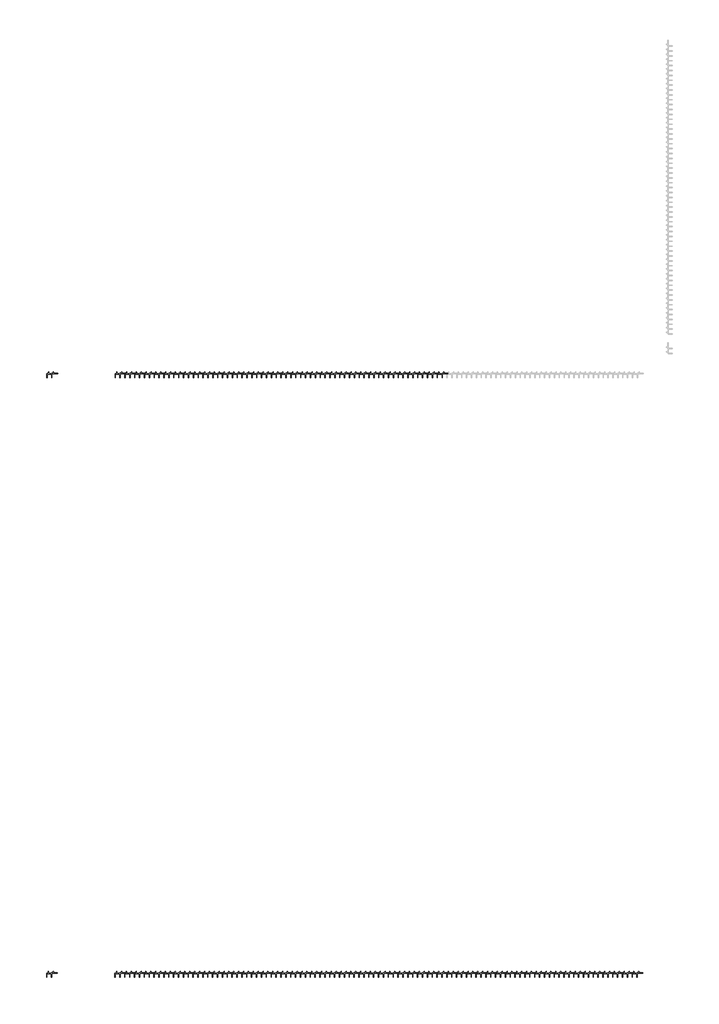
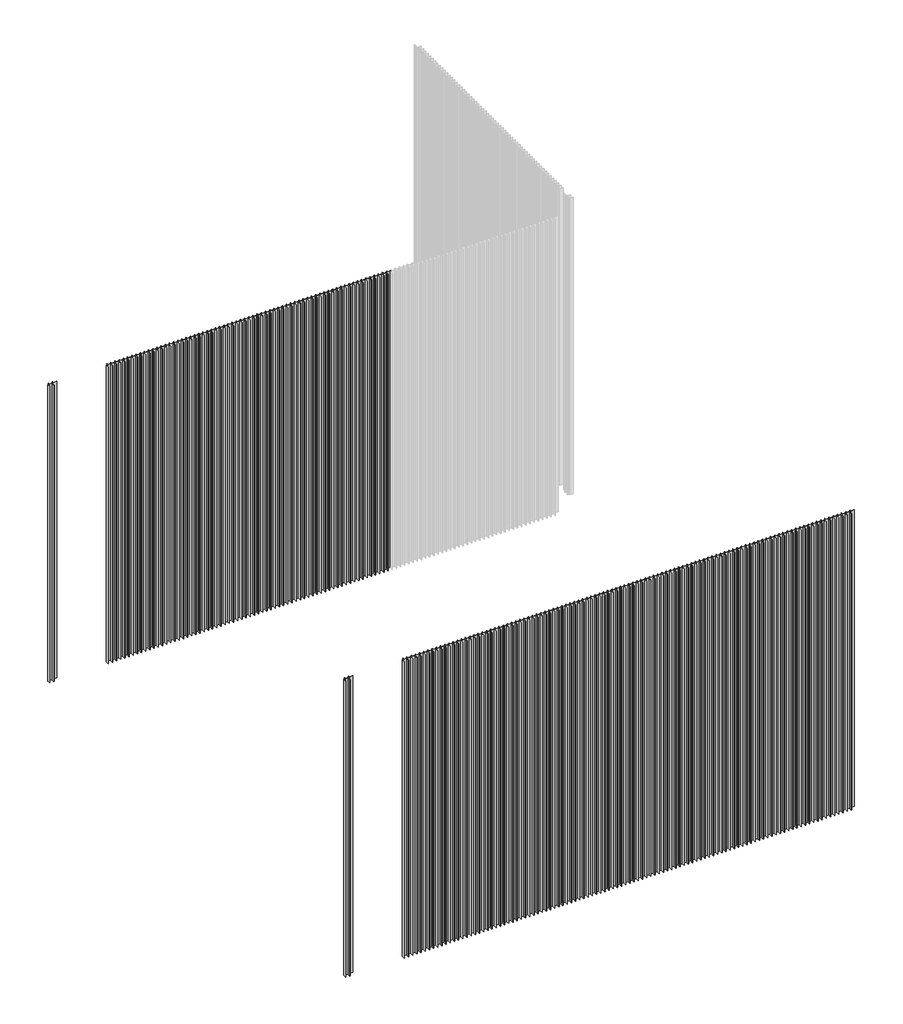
# One storey, part 1 of 2: 90 members.
"""IFC4 building model written with IfcOpenShell, lengths in millimetres."""

from ifc_helpers import new_model, si_unit, origin, place, context, project, spatial, transform, mapped, element, save
from components import rectangular_mullion_a288ed38, rectangular_mullion_a0ea876d

model = new_model("IFC4")

# Units and contexts
model_context = context("Model", 3, world=origin())
ifc_project = project(units=[si_unit("LENGTHUNIT", "METRE", prefix="MILLI")], contexts=[model_context])

# Site, building, storey
site = spatial("IfcSite", under=ifc_project)
building = spatial("IfcBuilding", under=site)
storey = spatial("IfcBuildingStorey", under=building, Name="REN - Top", Elevation=4000.0)

# Members
placement = place(None, origin())
rectangular_mullion_shape = rectangular_mullion_a288ed38(model_context)
element("IfcMember", 1, ObjectType="Rectangular Mullion : Renson_Linarte_LA-E25-01", at=placement, inside=storey, context=model_context, shape_type="MappedRepresentation", body=[
    mapped(rectangular_mullion_shape, transform((207544.2591292, 4519.040906, 0.0), x_axis=(1.0, 0.0, 0.0), y_axis=(0.0, -1.0, 0.0), z_axis=(0.0, 0.0, -1.0))),
])
element("IfcMember", 2, ObjectType="Rectangular Mullion : Renson_Linarte_LA-E25-01", at=placement, inside=storey, context=model_context, shape_type="MappedRepresentation", body=[
    mapped(rectangular_mullion_shape, transform((207604.2591292, 4519.040906, 0.0), x_axis=(1.0, 0.0, 0.0), y_axis=(0.0, -1.0, 0.0), z_axis=(0.0, 0.0, -1.0))),
])
element("IfcMember", 3, ObjectType="Rectangular Mullion : Renson_Linarte_LA-E25-01", at=placement, inside=storey, context=model_context, shape_type="MappedRepresentation", body=[
    mapped(rectangular_mullion_shape, transform((207664.2591292, 4519.040906, 0.0), x_axis=(1.0, 0.0, 0.0), y_axis=(0.0, -1.0, 0.0), z_axis=(0.0, 0.0, -1.0))),
])
element("IfcMember", 4, ObjectType="Rectangular Mullion : Renson_Linarte_LA-E25-01", at=placement, inside=storey, context=model_context, shape_type="MappedRepresentation", body=[
    mapped(rectangular_mullion_shape, transform((207724.2591292, 4519.040906, 0.0), x_axis=(1.0, 0.0, 0.0), y_axis=(0.0, -1.0, 0.0), z_axis=(0.0, 0.0, -1.0))),
])
element("IfcMember", 5, ObjectType="Rectangular Mullion : Renson_Linarte_LA-E25-01", at=placement, inside=storey, context=model_context, shape_type="MappedRepresentation", body=[
    mapped(rectangular_mullion_shape, transform((207784.2591292, 4519.040906, 0.0), x_axis=(1.0, 0.0, 0.0), y_axis=(0.0, -1.0, 0.0), z_axis=(0.0, 0.0, -1.0))),
])
element("IfcMember", 6, ObjectType="Rectangular Mullion : Renson_Linarte_LA-E25-01", at=placement, inside=storey, context=model_context, shape_type="MappedRepresentation", body=[
    mapped(rectangular_mullion_shape, transform((207844.2591292, 4519.040906, 0.0), x_axis=(1.0, 0.0, 0.0), y_axis=(0.0, -1.0, 0.0), z_axis=(0.0, 0.0, -1.0))),
])
element("IfcMember", 7, ObjectType="Rectangular Mullion : Renson_Linarte_LA-E25-01", at=placement, inside=storey, context=model_context, shape_type="MappedRepresentation", body=[
    mapped(rectangular_mullion_shape, transform((207904.2591292, 4519.040906, 0.0), x_axis=(1.0, 0.0, 0.0), y_axis=(0.0, -1.0, 0.0), z_axis=(0.0, 0.0, -1.0))),
])
element("IfcMember", 8, ObjectType="Rectangular Mullion : Renson_Linarte_LA-E25-01", at=placement, inside=storey, context=model_context, shape_type="MappedRepresentation", body=[
    mapped(rectangular_mullion_shape, transform((207964.2591292, 4519.040906, 0.0), x_axis=(1.0, 0.0, 0.0), y_axis=(0.0, -1.0, 0.0), z_axis=(0.0, 0.0, -1.0))),
])
element("IfcMember", 9, ObjectType="Rectangular Mullion : Renson_Linarte_LA-E25-01", at=placement, inside=storey, context=model_context, shape_type="MappedRepresentation", body=[
    mapped(rectangular_mullion_shape, transform((208024.2591292, 4519.040906, 0.0), x_axis=(1.0, 0.0, 0.0), y_axis=(0.0, -1.0, 0.0), z_axis=(0.0, 0.0, -1.0))),
])
element("IfcMember", 10, ObjectType="Rectangular Mullion : Renson_Linarte_LA-E25-01", at=placement, inside=storey, context=model_context, shape_type="MappedRepresentation", body=[
    mapped(rectangular_mullion_shape, transform((208084.2591292, 4519.040906, 0.0), x_axis=(1.0, 0.0, 0.0), y_axis=(0.0, -1.0, 0.0), z_axis=(0.0, 0.0, -1.0))),
])
element("IfcMember", 11, ObjectType="Rectangular Mullion : Renson_Linarte_LA-E25-01", at=placement, inside=storey, context=model_context, shape_type="MappedRepresentation", body=[
    mapped(rectangular_mullion_shape, transform((208144.2591292, 4519.040906, 0.0), x_axis=(1.0, 0.0, 0.0), y_axis=(0.0, -1.0, 0.0), z_axis=(0.0, 0.0, -1.0))),
])
element("IfcMember", 12, ObjectType="Rectangular Mullion : Renson_Linarte_LA-E25-01", at=placement, inside=storey, context=model_context, shape_type="MappedRepresentation", body=[
    mapped(rectangular_mullion_shape, transform((208204.2591292, 4519.040906, 0.0), x_axis=(1.0, 0.0, 0.0), y_axis=(0.0, -1.0, 0.0), z_axis=(0.0, 0.0, -1.0))),
])
element("IfcMember", 13, ObjectType="Rectangular Mullion : Renson_Linarte_LA-E25-01", at=placement, inside=storey, context=model_context, shape_type="MappedRepresentation", body=[
    mapped(rectangular_mullion_shape, transform((208264.2591292, 4519.040906, 0.0), x_axis=(1.0, 0.0, 0.0), y_axis=(0.0, -1.0, 0.0), z_axis=(0.0, 0.0, -1.0))),
])
element("IfcMember", 14, ObjectType="Rectangular Mullion : Renson_Linarte_LA-E25-01", at=placement, inside=storey, context=model_context, shape_type="MappedRepresentation", body=[
    mapped(rectangular_mullion_shape, transform((208324.2591292, 4519.040906, 0.0), x_axis=(1.0, 0.0, 0.0), y_axis=(0.0, -1.0, 0.0), z_axis=(0.0, 0.0, -1.0))),
])
element("IfcMember", 15, ObjectType="Rectangular Mullion : Renson_Linarte_LA-E25-01", at=placement, inside=storey, context=model_context, shape_type="MappedRepresentation", body=[
    mapped(rectangular_mullion_shape, transform((208384.2591292, 4519.040906, 0.0), x_axis=(1.0, 0.0, 0.0), y_axis=(0.0, -1.0, 0.0), z_axis=(0.0, 0.0, -1.0))),
])
element("IfcMember", 16, ObjectType="Rectangular Mullion : Renson_Linarte_LA-E25-01", at=placement, inside=storey, context=model_context, shape_type="MappedRepresentation", body=[
    mapped(rectangular_mullion_shape, transform((208444.2591292, 4519.040906, 0.0), x_axis=(1.0, 0.0, 0.0), y_axis=(0.0, -1.0, 0.0), z_axis=(0.0, 0.0, -1.0))),
])
element("IfcMember", 17, ObjectType="Rectangular Mullion : Renson_Linarte_LA-E25-01", at=placement, inside=storey, context=model_context, shape_type="MappedRepresentation", body=[
    mapped(rectangular_mullion_shape, transform((208504.2591292, 4519.040906, 0.0), x_axis=(1.0, 0.0, 0.0), y_axis=(0.0, -1.0, 0.0), z_axis=(0.0, 0.0, -1.0))),
])
element("IfcMember", 18, ObjectType="Rectangular Mullion : Renson_Linarte_LA-E25-01", at=placement, inside=storey, context=model_context, shape_type="MappedRepresentation", body=[
    mapped(rectangular_mullion_shape, transform((208564.2591292, 4519.040906, 0.0), x_axis=(1.0, 0.0, 0.0), y_axis=(0.0, -1.0, 0.0), z_axis=(0.0, 0.0, -1.0))),
])
element("IfcMember", 19, ObjectType="Rectangular Mullion : Renson_Linarte_LA-E25-01", at=placement, inside=storey, context=model_context, shape_type="MappedRepresentation", body=[
    mapped(rectangular_mullion_shape, transform((208624.2591292, 4519.040906, 0.0), x_axis=(1.0, 0.0, 0.0), y_axis=(0.0, -1.0, 0.0), z_axis=(0.0, 0.0, -1.0))),
])
element("IfcMember", 20, ObjectType="Rectangular Mullion : Renson_Linarte_LA-E25-01", at=placement, inside=storey, context=model_context, shape_type="MappedRepresentation", body=[
    mapped(rectangular_mullion_shape, transform((208684.2591292, 4519.040906, 0.0), x_axis=(1.0, 0.0, 0.0), y_axis=(0.0, -1.0, 0.0), z_axis=(0.0, 0.0, -1.0))),
])
element("IfcMember", 21, ObjectType="Rectangular Mullion : Renson_Linarte_LA-E25-01", at=placement, inside=storey, context=model_context, shape_type="MappedRepresentation", body=[
    mapped(rectangular_mullion_shape, transform((208744.2591292, 4519.040906, 0.0), x_axis=(1.0, 0.0, 0.0), y_axis=(0.0, -1.0, 0.0), z_axis=(0.0, 0.0, -1.0))),
])
element("IfcMember", 22, ObjectType="Rectangular Mullion : Renson_Linarte_LA-E25-01", at=placement, inside=storey, context=model_context, shape_type="MappedRepresentation", body=[
    mapped(rectangular_mullion_shape, transform((208804.2591292, 4519.040906, 0.0), x_axis=(1.0, 0.0, 0.0), y_axis=(0.0, -1.0, 0.0), z_axis=(0.0, 0.0, -1.0))),
])
element("IfcMember", 23, ObjectType="Rectangular Mullion : Renson_Linarte_LA-E25-01", at=placement, inside=storey, context=model_context, shape_type="MappedRepresentation", body=[
    mapped(rectangular_mullion_shape, transform((208864.2591292, 4519.040906, 0.0), x_axis=(1.0, 0.0, 0.0), y_axis=(0.0, -1.0, 0.0), z_axis=(0.0, 0.0, -1.0))),
])
element("IfcMember", 24, ObjectType="Rectangular Mullion : Renson_Linarte_LA-E25-01", at=placement, inside=storey, context=model_context, shape_type="MappedRepresentation", body=[
    mapped(rectangular_mullion_shape, transform((208924.2591292, 4519.040906, 0.0), x_axis=(1.0, 0.0, 0.0), y_axis=(0.0, -1.0, 0.0), z_axis=(0.0, 0.0, -1.0))),
])
element("IfcMember", 25, ObjectType="Rectangular Mullion : Renson_Linarte_LA-E25-01", at=placement, inside=storey, context=model_context, shape_type="MappedRepresentation", body=[
    mapped(rectangular_mullion_shape, transform((208984.2591292, 4519.040906, 0.0), x_axis=(1.0, 0.0, 0.0), y_axis=(0.0, -1.0, 0.0), z_axis=(0.0, 0.0, -1.0))),
])
element("IfcMember", 26, ObjectType="Rectangular Mullion : Renson_Linarte_LA-E25-01", at=placement, inside=storey, context=model_context, shape_type="MappedRepresentation", body=[
    mapped(rectangular_mullion_shape, transform((209044.2591292, 4519.040906, 0.0), x_axis=(1.0, 0.0, 0.0), y_axis=(0.0, -1.0, 0.0), z_axis=(0.0, 0.0, -1.0))),
])
element("IfcMember", 27, ObjectType="Rectangular Mullion : Renson_Linarte_LA-E25-01", at=placement, inside=storey, context=model_context, shape_type="MappedRepresentation", body=[
    mapped(rectangular_mullion_shape, transform((209104.2591292, 4519.040906, 0.0), x_axis=(1.0, 0.0, 0.0), y_axis=(0.0, -1.0, 0.0), z_axis=(0.0, 0.0, -1.0))),
])
element("IfcMember", 28, ObjectType="Rectangular Mullion : Renson_Linarte_LA-E25-01", at=placement, inside=storey, context=model_context, shape_type="MappedRepresentation", body=[
    mapped(rectangular_mullion_shape, transform((209164.2591292, 4519.040906, 0.0), x_axis=(1.0, 0.0, 0.0), y_axis=(0.0, -1.0, 0.0), z_axis=(0.0, 0.0, -1.0))),
])
element("IfcMember", 29, ObjectType="Rectangular Mullion : Renson_Linarte_LA-E25-01", at=placement, inside=storey, context=model_context, shape_type="MappedRepresentation", body=[
    mapped(rectangular_mullion_shape, transform((209224.2591292, 4519.040906, 0.0), x_axis=(1.0, 0.0, 0.0), y_axis=(0.0, -1.0, 0.0), z_axis=(0.0, 0.0, -1.0))),
])
element("IfcMember", 30, ObjectType="Rectangular Mullion : Renson_Linarte_LA-E25-01", at=placement, inside=storey, context=model_context, shape_type="MappedRepresentation", body=[
    mapped(rectangular_mullion_shape, transform((209284.2591292, 4519.040906, 0.0), x_axis=(1.0, 0.0, 0.0), y_axis=(0.0, -1.0, 0.0), z_axis=(0.0, 0.0, -1.0))),
])
element("IfcMember", 31, ObjectType="Rectangular Mullion : Renson_Linarte_LA-E25-01", at=placement, inside=storey, context=model_context, shape_type="MappedRepresentation", body=[
    mapped(rectangular_mullion_shape, transform((209344.2591292, 4519.040906, 0.0), x_axis=(1.0, 0.0, 0.0), y_axis=(0.0, -1.0, 0.0), z_axis=(0.0, 0.0, -1.0))),
])
element("IfcMember", 32, ObjectType="Rectangular Mullion : Renson_Linarte_LA-E25-01", at=placement, inside=storey, context=model_context, shape_type="MappedRepresentation", body=[
    mapped(rectangular_mullion_shape, transform((209404.2591292, 4519.040906, 0.0), x_axis=(1.0, 0.0, 0.0), y_axis=(0.0, -1.0, 0.0), z_axis=(0.0, 0.0, -1.0))),
])
element("IfcMember", 33, ObjectType="Rectangular Mullion : Renson_Linarte_LA-E25-01", at=placement, inside=storey, context=model_context, shape_type="MappedRepresentation", body=[
    mapped(rectangular_mullion_shape, transform((209464.2591292, 4519.040906, 0.0), x_axis=(1.0, 0.0, 0.0), y_axis=(0.0, -1.0, 0.0), z_axis=(0.0, 0.0, -1.0))),
])
element("IfcMember", 34, ObjectType="Rectangular Mullion : Renson_Linarte_LA-E25-01", at=placement, inside=storey, context=model_context, shape_type="MappedRepresentation", body=[
    mapped(rectangular_mullion_shape, transform((209524.2591292, 4519.040906, 0.0), x_axis=(1.0, 0.0, 0.0), y_axis=(0.0, -1.0, 0.0), z_axis=(0.0, 0.0, -1.0))),
])
element("IfcMember", 35, ObjectType="Rectangular Mullion : Renson_Linarte_LA-E25-01", at=placement, inside=storey, context=model_context, shape_type="MappedRepresentation", body=[
    mapped(rectangular_mullion_shape, transform((209584.2591292, 4519.040906, 0.0), x_axis=(1.0, 0.0, 0.0), y_axis=(0.0, -1.0, 0.0), z_axis=(0.0, 0.0, -1.0))),
])
element("IfcMember", 36, ObjectType="Rectangular Mullion : Renson_Linarte_LA-E25-01", at=placement, inside=storey, context=model_context, shape_type="MappedRepresentation", body=[
    mapped(rectangular_mullion_shape, transform((209644.2591292, 4519.040906, 0.0), x_axis=(1.0, 0.0, 0.0), y_axis=(0.0, -1.0, 0.0), z_axis=(0.0, 0.0, -1.0))),
])
element("IfcMember", 37, ObjectType="Rectangular Mullion : Renson_Linarte_LA-E25-01", at=placement, inside=storey, context=model_context, shape_type="MappedRepresentation", body=[
    mapped(rectangular_mullion_shape, transform((209704.2591292, 4519.040906, 0.0), x_axis=(1.0, 0.0, 0.0), y_axis=(0.0, -1.0, 0.0), z_axis=(0.0, 0.0, -1.0))),
])
element("IfcMember", 38, ObjectType="Rectangular Mullion : Renson_Linarte_LA-E25-01", at=placement, inside=storey, context=model_context, shape_type="MappedRepresentation", body=[
    mapped(rectangular_mullion_shape, transform((209764.2591292, 4519.040906, 0.0), x_axis=(1.0, 0.0, 0.0), y_axis=(0.0, -1.0, 0.0), z_axis=(0.0, 0.0, -1.0))),
])
element("IfcMember", 39, ObjectType="Rectangular Mullion : Renson_Linarte_LA-E25-01", at=placement, inside=storey, context=model_context, shape_type="MappedRepresentation", body=[
    mapped(rectangular_mullion_shape, transform((209824.2591292, 4519.040906, 0.0), x_axis=(1.0, 0.0, 0.0), y_axis=(0.0, -1.0, 0.0), z_axis=(0.0, 0.0, -1.0))),
])
element("IfcMember", 40, ObjectType="Rectangular Mullion : Renson_Linarte_LA-E25-01", at=placement, inside=storey, context=model_context, shape_type="MappedRepresentation", body=[
    mapped(rectangular_mullion_shape, transform((209884.2591292, 4519.040906, 0.0), x_axis=(1.0, 0.0, 0.0), y_axis=(0.0, -1.0, 0.0), z_axis=(0.0, 0.0, -1.0))),
])
element("IfcMember", 41, ObjectType="Rectangular Mullion : Renson_Linarte_LA-E25-01", at=placement, inside=storey, context=model_context, shape_type="MappedRepresentation", body=[
    mapped(rectangular_mullion_shape, transform((209944.2591292, 4519.040906, 0.0), x_axis=(1.0, 0.0, 0.0), y_axis=(0.0, -1.0, 0.0), z_axis=(0.0, 0.0, -1.0))),
])
element("IfcMember", 42, ObjectType="Rectangular Mullion : Renson_Linarte_LA-E25-01", at=placement, inside=storey, context=model_context, shape_type="MappedRepresentation", body=[
    mapped(rectangular_mullion_shape, transform((210004.2591292, 4519.040906, 0.0), x_axis=(1.0, 0.0, 0.0), y_axis=(0.0, -1.0, 0.0), z_axis=(0.0, 0.0, -1.0))),
])
element("IfcMember", 43, ObjectType="Rectangular Mullion : Renson_Linarte_LA-E25-01", at=placement, inside=storey, context=model_context, shape_type="MappedRepresentation", body=[
    mapped(rectangular_mullion_shape, transform((210064.2591292, 4519.040906, 0.0), x_axis=(1.0, 0.0, 0.0), y_axis=(0.0, -1.0, 0.0), z_axis=(0.0, 0.0, -1.0))),
])
element("IfcMember", 44, ObjectType="Rectangular Mullion : Renson_Linarte_LA-E25-01", at=placement, inside=storey, context=model_context, shape_type="MappedRepresentation", body=[
    mapped(rectangular_mullion_shape, transform((210124.2591292, 4519.040906, 0.0), x_axis=(1.0, 0.0, 0.0), y_axis=(0.0, -1.0, 0.0), z_axis=(0.0, 0.0, -1.0))),
])
element("IfcMember", 45, ObjectType="Rectangular Mullion : Renson_Linarte_LA-E25-01", at=placement, inside=storey, context=model_context, shape_type="MappedRepresentation", body=[
    mapped(rectangular_mullion_shape, transform((210184.2591292, 4519.040906, 0.0), x_axis=(1.0, 0.0, 0.0), y_axis=(0.0, -1.0, 0.0), z_axis=(0.0, 0.0, -1.0))),
])
element("IfcMember", 46, ObjectType="Rectangular Mullion : Renson_Linarte_LA-E25-01", at=placement, inside=storey, context=model_context, shape_type="MappedRepresentation", body=[
    mapped(rectangular_mullion_shape, transform((210244.2591292, 4519.040906, 0.0), x_axis=(1.0, 0.0, 0.0), y_axis=(0.0, -1.0, 0.0), z_axis=(0.0, 0.0, -1.0))),
])
element("IfcMember", 47, ObjectType="Rectangular Mullion : Renson_Linarte_LA-E25-01", at=placement, inside=storey, context=model_context, shape_type="MappedRepresentation", body=[
    mapped(rectangular_mullion_shape, transform((210304.2591292, 4519.040906, 0.0), x_axis=(1.0, 0.0, 0.0), y_axis=(0.0, -1.0, 0.0), z_axis=(0.0, 0.0, -1.0))),
])
element("IfcMember", 48, ObjectType="Rectangular Mullion : Renson_Linarte_LA-E25-01", at=placement, inside=storey, context=model_context, shape_type="MappedRepresentation", body=[
    mapped(rectangular_mullion_shape, transform((210364.2591292, 4519.040906, 0.0), x_axis=(1.0, 0.0, 0.0), y_axis=(0.0, -1.0, 0.0), z_axis=(0.0, 0.0, -1.0))),
])
element("IfcMember", 49, ObjectType="Rectangular Mullion : Renson_Linarte_LA-E25-01", at=placement, inside=storey, context=model_context, shape_type="MappedRepresentation", body=[
    mapped(rectangular_mullion_shape, transform((210424.2591292, 4519.040906, 0.0), x_axis=(1.0, 0.0, 0.0), y_axis=(0.0, -1.0, 0.0), z_axis=(0.0, 0.0, -1.0))),
])
element("IfcMember", 50, ObjectType="Rectangular Mullion : Renson_Linarte_LA-E25-01", at=placement, inside=storey, context=model_context, shape_type="MappedRepresentation", body=[
    mapped(rectangular_mullion_shape, transform((210484.2591292, 4519.040906, 0.0), x_axis=(1.0, 0.0, 0.0), y_axis=(0.0, -1.0, 0.0), z_axis=(0.0, 0.0, -1.0))),
])
element("IfcMember", 51, ObjectType="Rectangular Mullion : Renson_Linarte_LA-E25-01", at=placement, inside=storey, context=model_context, shape_type="MappedRepresentation", body=[
    mapped(rectangular_mullion_shape, transform((210544.2591292, 4519.040906, 0.0), x_axis=(1.0, 0.0, 0.0), y_axis=(0.0, -1.0, 0.0), z_axis=(0.0, 0.0, -1.0))),
])
element("IfcMember", 52, ObjectType="Rectangular Mullion : Renson_Linarte_LA-E25-01", at=placement, inside=storey, context=model_context, shape_type="MappedRepresentation", body=[
    mapped(rectangular_mullion_shape, transform((210604.2591292, 4519.040906, 0.0), x_axis=(1.0, 0.0, 0.0), y_axis=(0.0, -1.0, 0.0), z_axis=(0.0, 0.0, -1.0))),
])
element("IfcMember", 53, ObjectType="Rectangular Mullion : Renson_Linarte_LA-E25-01", at=placement, inside=storey, context=model_context, shape_type="MappedRepresentation", body=[
    mapped(rectangular_mullion_shape, transform((210664.2591292, 4519.040906, 0.0), x_axis=(1.0, 0.0, 0.0), y_axis=(0.0, -1.0, 0.0), z_axis=(0.0, 0.0, -1.0))),
])
element("IfcMember", 54, ObjectType="Rectangular Mullion : Renson_Linarte_LA-E25-01", at=placement, inside=storey, context=model_context, shape_type="MappedRepresentation", body=[
    mapped(rectangular_mullion_shape, transform((210724.2591292, 4519.040906, 0.0), x_axis=(1.0, 0.0, 0.0), y_axis=(0.0, -1.0, 0.0), z_axis=(0.0, 0.0, -1.0))),
])
element("IfcMember", 55, ObjectType="Rectangular Mullion : Renson_Linarte_LA-E25-01", at=placement, inside=storey, context=model_context, shape_type="MappedRepresentation", body=[
    mapped(rectangular_mullion_shape, transform((207545.5749429, 8204.7218191, 0.0), x_axis=(1.0, 0.0, 0.0), y_axis=(0.0, -1.0, 0.0), z_axis=(0.0, 0.0, -1.0))),
])
element("IfcMember", 56, ObjectType="Rectangular Mullion : Renson_Linarte_LA-E25-01", at=placement, inside=storey, context=model_context, shape_type="MappedRepresentation", body=[
    mapped(rectangular_mullion_shape, transform((207605.5749429, 8204.7218191, 0.0), x_axis=(1.0, 0.0, 0.0), y_axis=(0.0, -1.0, 0.0), z_axis=(0.0, 0.0, -1.0))),
])
element("IfcMember", 57, ObjectType="Rectangular Mullion : Renson_Linarte_LA-E25-01", at=placement, inside=storey, context=model_context, shape_type="MappedRepresentation", body=[
    mapped(rectangular_mullion_shape, transform((207665.5749429, 8204.7218191, 0.0), x_axis=(1.0, 0.0, 0.0), y_axis=(0.0, -1.0, 0.0), z_axis=(0.0, 0.0, -1.0))),
])
element("IfcMember", 58, ObjectType="Rectangular Mullion : Renson_Linarte_LA-E25-01", at=placement, inside=storey, context=model_context, shape_type="MappedRepresentation", body=[
    mapped(rectangular_mullion_shape, transform((207725.5749429, 8204.7218191, 0.0), x_axis=(1.0, 0.0, 0.0), y_axis=(0.0, -1.0, 0.0), z_axis=(0.0, 0.0, -1.0))),
])
element("IfcMember", 59, ObjectType="Rectangular Mullion : Renson_Linarte_LA-E25-01", at=placement, inside=storey, context=model_context, shape_type="MappedRepresentation", body=[
    mapped(rectangular_mullion_shape, transform((207785.5749429, 8204.7218191, 0.0), x_axis=(1.0, 0.0, 0.0), y_axis=(0.0, -1.0, 0.0), z_axis=(0.0, 0.0, -1.0))),
])
element("IfcMember", 60, ObjectType="Rectangular Mullion : Renson_Linarte_LA-E25-01", at=placement, inside=storey, context=model_context, shape_type="MappedRepresentation", body=[
    mapped(rectangular_mullion_shape, transform((207845.5749429, 8204.7218191, 0.0), x_axis=(1.0, 0.0, 0.0), y_axis=(0.0, -1.0, 0.0), z_axis=(0.0, 0.0, -1.0))),
])
element("IfcMember", 61, ObjectType="Rectangular Mullion : Renson_Linarte_LA-E25-01", at=placement, inside=storey, context=model_context, shape_type="MappedRepresentation", body=[
    mapped(rectangular_mullion_shape, transform((207905.5749429, 8204.7218191, 0.0), x_axis=(1.0, 0.0, 0.0), y_axis=(0.0, -1.0, 0.0), z_axis=(0.0, 0.0, -1.0))),
])
element("IfcMember", 62, ObjectType="Rectangular Mullion : Renson_Linarte_LA-E25-01", at=placement, inside=storey, context=model_context, shape_type="MappedRepresentation", body=[
    mapped(rectangular_mullion_shape, transform((207965.5749429, 8204.7218191, 0.0), x_axis=(1.0, 0.0, 0.0), y_axis=(0.0, -1.0, 0.0), z_axis=(0.0, 0.0, -1.0))),
])
element("IfcMember", 63, ObjectType="Rectangular Mullion : Renson_Linarte_LA-E25-01", at=placement, inside=storey, context=model_context, shape_type="MappedRepresentation", body=[
    mapped(rectangular_mullion_shape, transform((208025.5749429, 8204.7218191, 0.0), x_axis=(1.0, 0.0, 0.0), y_axis=(0.0, -1.0, 0.0), z_axis=(0.0, 0.0, -1.0))),
])
element("IfcMember", 64, ObjectType="Rectangular Mullion : Renson_Linarte_LA-E25-01", at=placement, inside=storey, context=model_context, shape_type="MappedRepresentation", body=[
    mapped(rectangular_mullion_shape, transform((208085.5749429, 8204.7218191, 0.0), x_axis=(1.0, 0.0, 0.0), y_axis=(0.0, -1.0, 0.0), z_axis=(0.0, 0.0, -1.0))),
])
element("IfcMember", 65, ObjectType="Rectangular Mullion : Renson_Linarte_LA-E25-01", at=placement, inside=storey, context=model_context, shape_type="MappedRepresentation", body=[
    mapped(rectangular_mullion_shape, transform((208145.5749429, 8204.7218191, 0.0), x_axis=(1.0, 0.0, 0.0), y_axis=(0.0, -1.0, 0.0), z_axis=(0.0, 0.0, -1.0))),
])
element("IfcMember", 66, ObjectType="Rectangular Mullion : Renson_Linarte_LA-E25-01", at=placement, inside=storey, context=model_context, shape_type="MappedRepresentation", body=[
    mapped(rectangular_mullion_shape, transform((208205.5749429, 8204.7218191, 0.0), x_axis=(1.0, 0.0, 0.0), y_axis=(0.0, -1.0, 0.0), z_axis=(0.0, 0.0, -1.0))),
])
element("IfcMember", 67, ObjectType="Rectangular Mullion : Renson_Linarte_LA-E25-01", at=placement, inside=storey, context=model_context, shape_type="MappedRepresentation", body=[
    mapped(rectangular_mullion_shape, transform((208265.5749429, 8204.7218191, 0.0), x_axis=(1.0, 0.0, 0.0), y_axis=(0.0, -1.0, 0.0), z_axis=(0.0, 0.0, -1.0))),
])
element("IfcMember", 68, ObjectType="Rectangular Mullion : Renson_Linarte_LA-E25-01", at=placement, inside=storey, context=model_context, shape_type="MappedRepresentation", body=[
    mapped(rectangular_mullion_shape, transform((208325.5749429, 8204.7218191, 0.0), x_axis=(1.0, 0.0, 0.0), y_axis=(0.0, -1.0, 0.0), z_axis=(0.0, 0.0, -1.0))),
])
element("IfcMember", 69, ObjectType="Rectangular Mullion : Renson_Linarte_LA-E25-01", at=placement, inside=storey, context=model_context, shape_type="MappedRepresentation", body=[
    mapped(rectangular_mullion_shape, transform((208385.5749429, 8204.7218191, 0.0), x_axis=(1.0, 0.0, 0.0), y_axis=(0.0, -1.0, 0.0), z_axis=(0.0, 0.0, -1.0))),
])
element("IfcMember", 70, ObjectType="Rectangular Mullion : Renson_Linarte_LA-E25-01", at=placement, inside=storey, context=model_context, shape_type="MappedRepresentation", body=[
    mapped(rectangular_mullion_shape, transform((208445.5749429, 8204.7218191, 0.0), x_axis=(1.0, 0.0, 0.0), y_axis=(0.0, -1.0, 0.0), z_axis=(0.0, 0.0, -1.0))),
])
element("IfcMember", 71, ObjectType="Rectangular Mullion : Renson_Linarte_LA-E25-01", at=placement, inside=storey, context=model_context, shape_type="MappedRepresentation", body=[
    mapped(rectangular_mullion_shape, transform((208505.5749429, 8204.7218191, 0.0), x_axis=(1.0, 0.0, 0.0), y_axis=(0.0, -1.0, 0.0), z_axis=(0.0, 0.0, -1.0))),
])
element("IfcMember", 72, ObjectType="Rectangular Mullion : Renson_Linarte_LA-E25-01", at=placement, inside=storey, context=model_context, shape_type="MappedRepresentation", body=[
    mapped(rectangular_mullion_shape, transform((208565.5749429, 8204.7218191, 0.0), x_axis=(1.0, 0.0, 0.0), y_axis=(0.0, -1.0, 0.0), z_axis=(0.0, 0.0, -1.0))),
])
element("IfcMember", 73, ObjectType="Rectangular Mullion : Renson_Linarte_LA-E25-01", at=placement, inside=storey, context=model_context, shape_type="MappedRepresentation", body=[
    mapped(rectangular_mullion_shape, transform((208625.5749429, 8204.7218191, 0.0), x_axis=(1.0, 0.0, 0.0), y_axis=(0.0, -1.0, 0.0), z_axis=(0.0, 0.0, -1.0))),
])
element("IfcMember", 74, ObjectType="Rectangular Mullion : Renson_Linarte_LA-E25-01", at=placement, inside=storey, context=model_context, shape_type="MappedRepresentation", body=[
    mapped(rectangular_mullion_shape, transform((208685.5749429, 8204.7218191, 0.0), x_axis=(1.0, 0.0, 0.0), y_axis=(0.0, -1.0, 0.0), z_axis=(0.0, 0.0, -1.0))),
])
element("IfcMember", 75, ObjectType="Rectangular Mullion : Renson_Linarte_LA-E25-01", at=placement, inside=storey, context=model_context, shape_type="MappedRepresentation", body=[
    mapped(rectangular_mullion_shape, transform((208745.5749429, 8204.7218191, 0.0), x_axis=(1.0, 0.0, 0.0), y_axis=(0.0, -1.0, 0.0), z_axis=(0.0, 0.0, -1.0))),
])
element("IfcMember", 76, ObjectType="Rectangular Mullion : Renson_Linarte_LA-E25-01", at=placement, inside=storey, context=model_context, shape_type="MappedRepresentation", body=[
    mapped(rectangular_mullion_shape, transform((208805.5749429, 8204.7218191, 0.0), x_axis=(1.0, 0.0, 0.0), y_axis=(0.0, -1.0, 0.0), z_axis=(0.0, 0.0, -1.0))),
])
element("IfcMember", 77, ObjectType="Rectangular Mullion : Renson_Linarte_LA-E25-01", at=placement, inside=storey, context=model_context, shape_type="MappedRepresentation", body=[
    mapped(rectangular_mullion_shape, transform((208865.5749429, 8204.7218191, 0.0), x_axis=(1.0, 0.0, 0.0), y_axis=(0.0, -1.0, 0.0), z_axis=(0.0, 0.0, -1.0))),
])
element("IfcMember", 78, ObjectType="Rectangular Mullion : Renson_Linarte_LA-E25-01", at=placement, inside=storey, context=model_context, shape_type="MappedRepresentation", body=[
    mapped(rectangular_mullion_shape, transform((208925.5749429, 8204.7218191, 0.0), x_axis=(1.0, 0.0, 0.0), y_axis=(0.0, -1.0, 0.0), z_axis=(0.0, 0.0, -1.0))),
])
element("IfcMember", 79, ObjectType="Rectangular Mullion : Renson_Linarte_LA-E25-01", at=placement, inside=storey, context=model_context, shape_type="MappedRepresentation", body=[
    mapped(rectangular_mullion_shape, transform((208985.5749429, 8204.7218191, 0.0), x_axis=(1.0, 0.0, 0.0), y_axis=(0.0, -1.0, 0.0), z_axis=(0.0, 0.0, -1.0))),
])
element("IfcMember", 80, ObjectType="Rectangular Mullion : Renson_Linarte_LA-E25-01", at=placement, inside=storey, context=model_context, shape_type="MappedRepresentation", body=[
    mapped(rectangular_mullion_shape, transform((209045.5749429, 8204.7218191, 0.0), x_axis=(1.0, 0.0, 0.0), y_axis=(0.0, -1.0, 0.0), z_axis=(0.0, 0.0, -1.0))),
])
element("IfcMember", 81, ObjectType="Rectangular Mullion : Renson_Linarte_LA-E25-01", at=placement, inside=storey, context=model_context, shape_type="MappedRepresentation", body=[
    mapped(rectangular_mullion_shape, transform((209105.5749429, 8204.7218191, 0.0), x_axis=(1.0, 0.0, 0.0), y_axis=(0.0, -1.0, 0.0), z_axis=(0.0, 0.0, -1.0))),
])
element("IfcMember", 82, ObjectType="Rectangular Mullion : Renson_Linarte_LA-E25-01", at=placement, inside=storey, context=model_context, shape_type="MappedRepresentation", body=[
    mapped(rectangular_mullion_shape, transform((209165.5749429, 8204.7218191, 0.0), x_axis=(1.0, 0.0, 0.0), y_axis=(0.0, -1.0, 0.0), z_axis=(0.0, 0.0, -1.0))),
])
element("IfcMember", 83, ObjectType="Rectangular Mullion : Renson_Linarte_LA-E25-01", at=placement, inside=storey, context=model_context, shape_type="MappedRepresentation", body=[
    mapped(rectangular_mullion_shape, transform((209225.5749429, 8204.7218191, 0.0), x_axis=(1.0, 0.0, 0.0), y_axis=(0.0, -1.0, 0.0), z_axis=(0.0, 0.0, -1.0))),
])
element("IfcMember", 84, ObjectType="Rectangular Mullion : Renson_Linarte_LA-E25-01", at=placement, inside=storey, context=model_context, shape_type="MappedRepresentation", body=[
    mapped(rectangular_mullion_shape, transform((209285.5749429, 8204.7218191, 0.0), x_axis=(1.0, 0.0, 0.0), y_axis=(0.0, -1.0, 0.0), z_axis=(0.0, 0.0, -1.0))),
])
element("IfcMember", 85, ObjectType="Rectangular Mullion : Renson_Linarte_LA-E25-01", at=placement, inside=storey, context=model_context, shape_type="MappedRepresentation", body=[
    mapped(rectangular_mullion_shape, transform((209345.5749429, 8204.7218191, 0.0), x_axis=(1.0, 0.0, 0.0), y_axis=(0.0, -1.0, 0.0), z_axis=(0.0, 0.0, -1.0))),
])
element("IfcMember", 86, ObjectType="Rectangular Mullion : Renson_Linarte_LA-E25-01", at=placement, inside=storey, context=model_context, shape_type="MappedRepresentation", body=[
    mapped(rectangular_mullion_shape, transform((209405.5749429, 8204.7218191, 0.0), x_axis=(1.0, 0.0, 0.0), y_axis=(0.0, -1.0, 0.0), z_axis=(0.0, 0.0, -1.0))),
])
element("IfcMember", 87, ObjectType="Rectangular Mullion : Renson_Linarte_LA-E25-01", at=placement, inside=storey, context=model_context, shape_type="MappedRepresentation", body=[
    mapped(rectangular_mullion_shape, transform((209465.5749429, 8204.7218191, 0.0), x_axis=(1.0, 0.0, 0.0), y_axis=(0.0, -1.0, 0.0), z_axis=(0.0, 0.0, -1.0))),
])
element("IfcMember", 88, ObjectType="Rectangular Mullion : Renson_Linarte_LA-E25-01", at=placement, inside=storey, context=model_context, shape_type="MappedRepresentation", body=[
    mapped(rectangular_mullion_shape, transform((209525.5749429, 8204.7218191, 0.0), x_axis=(1.0, 0.0, 0.0), y_axis=(0.0, -1.0, 0.0), z_axis=(0.0, 0.0, -1.0))),
])
rectangular_mullion_2_shape = rectangular_mullion_a0ea876d(model_context)
element("IfcMember", 89, ObjectType="Rectangular Mullion : Renson_Linarte_LA-E25-01", at=placement, inside=storey, context=model_context, shape_type="MappedRepresentation", body=[
    mapped(rectangular_mullion_2_shape, transform((207124.2591289, 4519.040906, 2250.0), x_axis=(-1.0, 0.0, 0.0), y_axis=(0.0, -1.0, 0.0), z_axis=(0.0, 0.0, 1.0))),
])
element("IfcMember", 90, ObjectType="Rectangular Mullion : Renson_Linarte_LA-E25-01", at=placement, inside=storey, context=model_context, shape_type="MappedRepresentation", body=[
    mapped(rectangular_mullion_2_shape, transform((207125.5749426, 8204.7218191, 2250.0), x_axis=(-1.0, 0.0, 0.0), y_axis=(0.0, -1.0, 0.0), z_axis=(0.0, 0.0, 1.0))),
])

save(model, "model.ifc")
